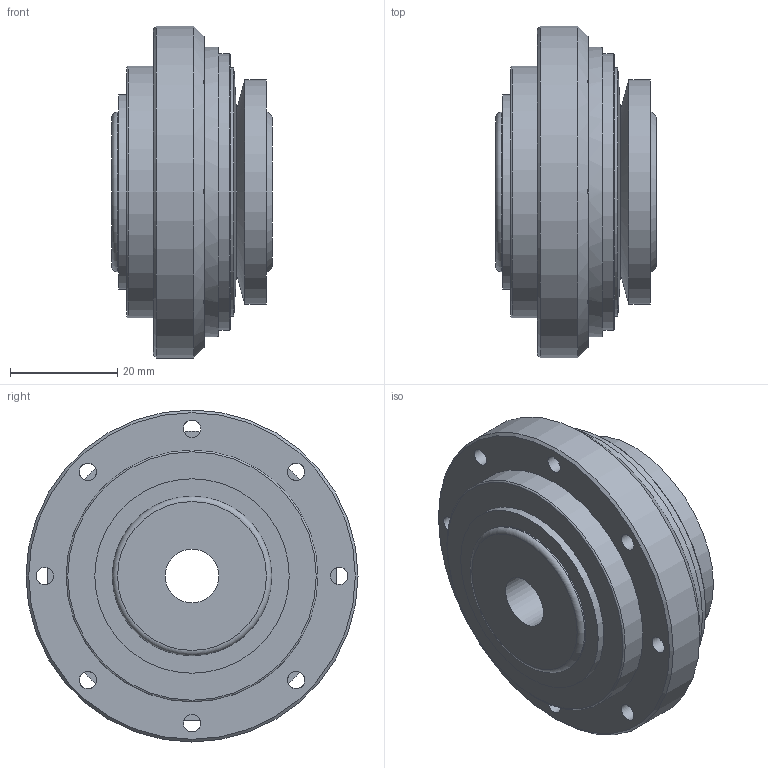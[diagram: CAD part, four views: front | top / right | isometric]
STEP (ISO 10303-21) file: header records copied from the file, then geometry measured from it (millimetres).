
FILE_DESCRIPTION(/* description */ ('Unknown'),/* implementation_level */ '2;1');
FILE_NAME(/* name */ 'SKVA-N 12',/* time_stamp */ '2025-02-12T13:29:46+01:00',/* author */ ('Unknown'),/* organization */ ('Unknown'),/* preprocessor_version */ 'ST-DEVELOPER v18.102',/* originating_system */ 'Solid Edge',/* authorisation */ 'Unknown');
FILE_SCHEMA (('AUTOMOTIVE_DESIGN {1 0 10303 214 3 1 1}'));
Length unit declared in the file: millimetre
Products named in the file (1): SKVA-N  12
Bounding box: 30 x 62 x 62 mm (x, y, z)
Volume: 56746.8 mm3; surface area: 12892.8 mm2
Topology: 1 solids, 1 shells, 53 faces, 132 edges, 79 vertices
Faces by surface type: plane 25, cylinder 18, cone 8, torus 2
Full cylindrical faces by diameter (mm): 3.242 x8, 10 x1, 29.8 x1, 30 x2, 36.321 x1, 42 x1, 47 x1, 51.7 x1, 54 x1, 62 x1
Entity records: 1845 total; most frequent: CARTESIAN_POINT 318, DIRECTION 260, ORIENTED_EDGE 184, AXIS2_PLACEMENT_3D 130, EDGE_LOOP 98, FACE_BOUND 98, EDGE_CURVE 92, CIRCLE 76
